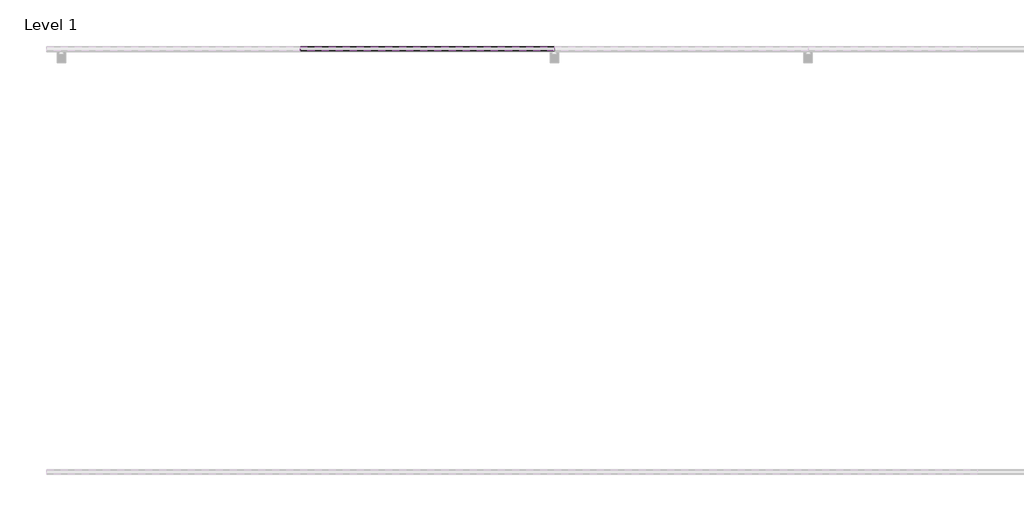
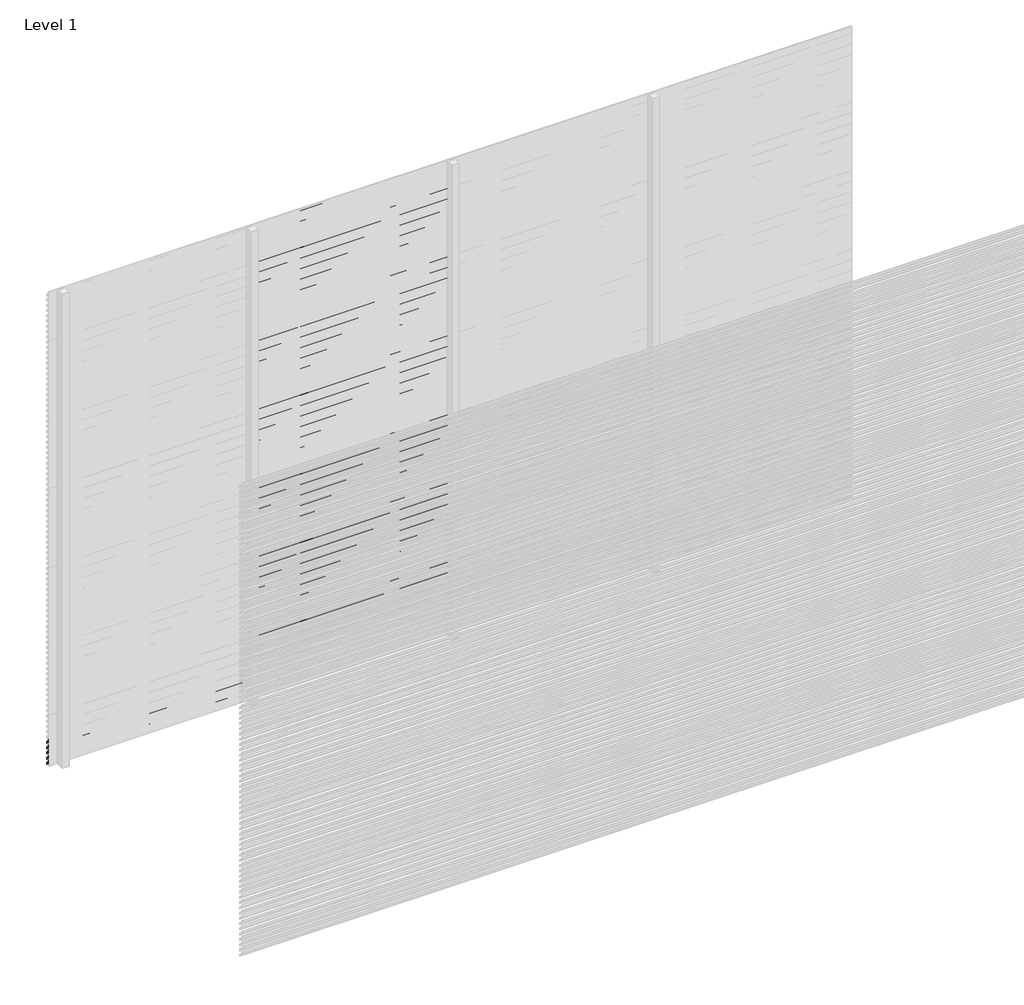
# One storey, part 51 of 507: 84 proxies.
"""IFC4 building model written with IfcOpenShell, lengths in millimetres."""

from ifc_helpers import new_model, si_unit, frame, origin, place, context, project, spatial, polyline, outline, extrude, element, save

model = new_model("IFC4")

# Units and contexts
model_context = context("Model", 3, world=origin())
ifc_project = project(units=[si_unit("LENGTHUNIT", "METRE", prefix="MILLI")], contexts=[model_context])

# Site, building, storey
site = spatial("IfcSite", under=ifc_project)
building = spatial("IfcBuilding", under=site)
storey = spatial("IfcBuildingStorey", under=building, Name="Level 1", Elevation=0.0)

# Proxies
placement = place(None, origin())
element("IfcBuildingElementProxy", 1, Name="Wall Sweeps", at=placement, inside=storey, context=model_context, shape_type="SweptSolid", body=[
    extrude(outline(polyline([(36503.4540136, 142.5), (36503.4540136, 129.0), (36502.2040136, 129.7216933), (36502.2040136, 141.7782281), (36483.0540136, 152.8345698), (36483.0540136, 166.5), (36484.3040136, 166.5), (36484.3040136, 153.5562577), (36503.4540136, 142.5)])), frame((44966.6208097, 0.0, 0.0), z_axis=(1.0, 0.0, 0.0), x_axis=(0.0, 1.0, 0.0)), (0.0, 0.0, 1.0), 1200.0000002),
])
element("IfcBuildingElementProxy", 2, Name="Wall Sweeps", at=placement, inside=storey, context=model_context, shape_type="SweptSolid", body=[
    extrude(outline(polyline([(36503.4540136, 109.2), (36503.4540136, 95.7), (36502.2040136, 96.4216933), (36502.2040136, 108.4782281), (36483.0540136, 119.5345698), (36483.0540136, 133.2), (36484.3040136, 133.2), (36484.3040136, 120.2562577), (36503.4540136, 109.2)])), frame((44966.6208097, 0.0, 0.0), z_axis=(1.0, 0.0, 0.0), x_axis=(0.0, 1.0, 0.0)), (0.0, 0.0, 1.0), 1200.0000002),
])
element("IfcBuildingElementProxy", 3, Name="Wall Sweeps", at=placement, inside=storey, context=model_context, shape_type="SweptSolid", body=[
    extrude(outline(polyline([(36503.4540136, 75.9), (36503.4540136, 62.4), (36502.2040136, 63.1216933), (36502.2040136, 75.1782281), (36483.0540136, 86.2345698), (36483.0540136, 99.9), (36484.3040136, 99.9), (36484.3040136, 86.9562577), (36503.4540136, 75.9)])), frame((44966.6208097, 0.0, 0.0), z_axis=(1.0, 0.0, 0.0), x_axis=(0.0, 1.0, 0.0)), (0.0, 0.0, 1.0), 1200.0000002),
])
element("IfcBuildingElementProxy", 4, Name="Wall Sweeps", at=placement, inside=storey, context=model_context, shape_type="SweptSolid", body=[
    extrude(outline(polyline([(36503.4540136, 42.6), (36503.4540136, 29.1), (36502.2040136, 29.8216933), (36502.2040136, 41.8782281), (36483.0540136, 52.9345698), (36483.0540136, 66.6), (36484.3040136, 66.6), (36484.3040136, 53.6562577), (36503.4540136, 42.6)])), frame((44966.6208097, 0.0, 0.0), z_axis=(1.0, 0.0, 0.0), x_axis=(0.0, 1.0, 0.0)), (0.0, 0.0, 1.0), 1200.0000002),
])
element("IfcBuildingElementProxy", 5, Name="Wall Sweeps", at=placement, inside=storey, context=model_context, shape_type="SweptSolid", body=[
    extrude(outline(polyline([(36503.4540136, 9.3), (36503.4540136, -4.2), (36502.2040136, -3.4783067), (36502.2040136, 8.5782281), (36483.0540136, 19.6345698), (36483.0540136, 33.3), (36484.3040136, 33.3), (36484.3040136, 20.3562577), (36503.4540136, 9.3)])), frame((44966.6208097, 0.0, 0.0), z_axis=(1.0, 0.0, 0.0), x_axis=(0.0, 1.0, 0.0)), (0.0, 0.0, 1.0), 1200.0000002),
])
element("IfcBuildingElementProxy", 6, Name="Wall Sweeps", at=placement, inside=storey, context=model_context, shape_type="SweptSolid", body=[
    extrude(outline(polyline([(36503.4540136, 2973.0), (36503.4540136, 2959.5), (36502.2040136, 2960.2216933), (36502.2040136, 2972.2782281), (36483.0540136, 2983.3345698), (36483.0540136, 2997.0), (36484.3040136, 2997.0), (36484.3040136, 2984.0562577), (36503.4540136, 2973.0)])), frame((46166.6208099, 0.0, 0.0), z_axis=(1.0, 0.0, 0.0), x_axis=(0.0, 1.0, 0.0)), (0.0, 0.0, 1.0), 1199.9999999),
])
element("IfcBuildingElementProxy", 7, Name="Wall Sweeps", at=placement, inside=storey, context=model_context, shape_type="SweptSolid", body=[
    extrude(outline(polyline([(36503.4540136, 2939.7), (36503.4540136, 2926.2), (36502.2040136, 2926.9216933), (36502.2040136, 2938.9782281), (36483.0540136, 2950.0345698), (36483.0540136, 2963.7), (36484.3040136, 2963.7), (36484.3040136, 2950.7562577), (36503.4540136, 2939.7)])), frame((46166.6208099, 0.0, 0.0), z_axis=(1.0, 0.0, 0.0), x_axis=(0.0, 1.0, 0.0)), (0.0, 0.0, 1.0), 1199.9999999),
])
element("IfcBuildingElementProxy", 8, Name="Wall Sweeps", at=placement, inside=storey, context=model_context, shape_type="SweptSolid", body=[
    extrude(outline(polyline([(36503.4540136, 2906.4), (36503.4540136, 2892.9), (36502.2040136, 2893.6216933), (36502.2040136, 2905.6782281), (36483.0540136, 2916.7345698), (36483.0540136, 2930.4), (36484.3040136, 2930.4), (36484.3040136, 2917.4562577), (36503.4540136, 2906.4)])), frame((46166.6208099, 0.0, 0.0), z_axis=(1.0, 0.0, 0.0), x_axis=(0.0, 1.0, 0.0)), (0.0, 0.0, 1.0), 1199.9999999),
])
element("IfcBuildingElementProxy", 9, Name="Wall Sweeps", at=placement, inside=storey, context=model_context, shape_type="SweptSolid", body=[
    extrude(outline(polyline([(36503.4540136, 2873.1), (36503.4540136, 2859.6), (36502.2040136, 2860.3216933), (36502.2040136, 2872.3782281), (36483.0540136, 2883.4345698), (36483.0540136, 2897.1), (36484.3040136, 2897.1), (36484.3040136, 2884.1562577), (36503.4540136, 2873.1)])), frame((46166.6208099, 0.0, 0.0), z_axis=(1.0, 0.0, 0.0), x_axis=(0.0, 1.0, 0.0)), (0.0, 0.0, 1.0), 1199.9999999),
])
element("IfcBuildingElementProxy", 10, Name="Wall Sweeps", at=placement, inside=storey, context=model_context, shape_type="SweptSolid", body=[
    extrude(outline(polyline([(36503.4540136, 2839.8), (36503.4540136, 2826.3), (36502.2040136, 2827.0216933), (36502.2040136, 2839.0782281), (36483.0540136, 2850.1345698), (36483.0540136, 2863.8), (36484.3040136, 2863.8), (36484.3040136, 2850.8562577), (36503.4540136, 2839.8)])), frame((46166.6208099, 0.0, 0.0), z_axis=(1.0, 0.0, 0.0), x_axis=(0.0, 1.0, 0.0)), (0.0, 0.0, 1.0), 1199.9999999),
])
element("IfcBuildingElementProxy", 11, Name="Wall Sweeps", at=placement, inside=storey, context=model_context, shape_type="SweptSolid", body=[
    extrude(outline(polyline([(36503.4540136, 2806.5), (36503.4540136, 2793.0), (36502.2040136, 2793.7216933), (36502.2040136, 2805.7782281), (36483.0540136, 2816.8345698), (36483.0540136, 2830.5), (36484.3040136, 2830.5), (36484.3040136, 2817.5562577), (36503.4540136, 2806.5)])), frame((46166.6208099, 0.0, 0.0), z_axis=(1.0, 0.0, 0.0), x_axis=(0.0, 1.0, 0.0)), (0.0, 0.0, 1.0), 1199.9999999),
])
element("IfcBuildingElementProxy", 12, Name="Wall Sweeps", at=placement, inside=storey, context=model_context, shape_type="SweptSolid", body=[
    extrude(outline(polyline([(36503.4540136, 2773.2), (36503.4540136, 2759.7), (36502.2040136, 2760.4216933), (36502.2040136, 2772.4782281), (36483.0540136, 2783.5345698), (36483.0540136, 2797.2), (36484.3040136, 2797.2), (36484.3040136, 2784.2562577), (36503.4540136, 2773.2)])), frame((46166.6208099, 0.0, 0.0), z_axis=(1.0, 0.0, 0.0), x_axis=(0.0, 1.0, 0.0)), (0.0, 0.0, 1.0), 1199.9999999),
])
element("IfcBuildingElementProxy", 13, Name="Wall Sweeps", at=placement, inside=storey, context=model_context, shape_type="SweptSolid", body=[
    extrude(outline(polyline([(36503.4540136, 2739.9), (36503.4540136, 2726.4), (36502.2040136, 2727.1216933), (36502.2040136, 2739.1782281), (36483.0540136, 2750.2345698), (36483.0540136, 2763.9), (36484.3040136, 2763.9), (36484.3040136, 2750.9562577), (36503.4540136, 2739.9)])), frame((46166.6208099, 0.0, 0.0), z_axis=(1.0, 0.0, 0.0), x_axis=(0.0, 1.0, 0.0)), (0.0, 0.0, 1.0), 1199.9999999),
])
element("IfcBuildingElementProxy", 14, Name="Wall Sweeps", at=placement, inside=storey, context=model_context, shape_type="SweptSolid", body=[
    extrude(outline(polyline([(36503.4540136, 2706.6), (36503.4540136, 2693.1), (36502.2040136, 2693.8216933), (36502.2040136, 2705.8782281), (36483.0540136, 2716.9345698), (36483.0540136, 2730.6), (36484.3040136, 2730.6), (36484.3040136, 2717.6562577), (36503.4540136, 2706.6)])), frame((46166.6208099, 0.0, 0.0), z_axis=(1.0, 0.0, 0.0), x_axis=(0.0, 1.0, 0.0)), (0.0, 0.0, 1.0), 1199.9999999),
])
element("IfcBuildingElementProxy", 15, Name="Wall Sweeps", at=placement, inside=storey, context=model_context, shape_type="SweptSolid", body=[
    extrude(outline(polyline([(36503.4540136, 2673.3), (36503.4540136, 2659.8), (36502.2040136, 2660.5216933), (36502.2040136, 2672.5782281), (36483.0540136, 2683.6345698), (36483.0540136, 2697.3), (36484.3040136, 2697.3), (36484.3040136, 2684.3562577), (36503.4540136, 2673.3)])), frame((46166.6208099, 0.0, 0.0), z_axis=(1.0, 0.0, 0.0), x_axis=(0.0, 1.0, 0.0)), (0.0, 0.0, 1.0), 1199.9999999),
])
element("IfcBuildingElementProxy", 16, Name="Wall Sweeps", at=placement, inside=storey, context=model_context, shape_type="SweptSolid", body=[
    extrude(outline(polyline([(36503.4540136, 2640.0), (36503.4540136, 2626.5), (36502.2040136, 2627.2216933), (36502.2040136, 2639.2782281), (36483.0540136, 2650.3345698), (36483.0540136, 2664.0), (36484.3040136, 2664.0), (36484.3040136, 2651.0562577), (36503.4540136, 2640.0)])), frame((46166.6208099, 0.0, 0.0), z_axis=(1.0, 0.0, 0.0), x_axis=(0.0, 1.0, 0.0)), (0.0, 0.0, 1.0), 1199.9999999),
])
element("IfcBuildingElementProxy", 17, Name="Wall Sweeps", at=placement, inside=storey, context=model_context, shape_type="SweptSolid", body=[
    extrude(outline(polyline([(36503.4540136, 2606.7), (36503.4540136, 2593.2), (36502.2040136, 2593.9216933), (36502.2040136, 2605.9782281), (36483.0540136, 2617.0345698), (36483.0540136, 2630.7), (36484.3040136, 2630.7), (36484.3040136, 2617.7562577), (36503.4540136, 2606.7)])), frame((46166.6208099, 0.0, 0.0), z_axis=(1.0, 0.0, 0.0), x_axis=(0.0, 1.0, 0.0)), (0.0, 0.0, 1.0), 1199.9999999),
])
element("IfcBuildingElementProxy", 18, Name="Wall Sweeps", at=placement, inside=storey, context=model_context, shape_type="SweptSolid", body=[
    extrude(outline(polyline([(36503.4540136, 2573.4), (36503.4540136, 2559.9), (36502.2040136, 2560.6216933), (36502.2040136, 2572.6782281), (36483.0540136, 2583.7345698), (36483.0540136, 2597.4), (36484.3040136, 2597.4), (36484.3040136, 2584.4562577), (36503.4540136, 2573.4)])), frame((46166.6208099, 0.0, 0.0), z_axis=(1.0, 0.0, 0.0), x_axis=(0.0, 1.0, 0.0)), (0.0, 0.0, 1.0), 1199.9999999),
])
element("IfcBuildingElementProxy", 19, Name="Wall Sweeps", at=placement, inside=storey, context=model_context, shape_type="SweptSolid", body=[
    extrude(outline(polyline([(36503.4540136, 2540.1), (36503.4540136, 2526.6), (36502.2040136, 2527.3216933), (36502.2040136, 2539.3782281), (36483.0540136, 2550.4345698), (36483.0540136, 2564.1), (36484.3040136, 2564.1), (36484.3040136, 2551.1562577), (36503.4540136, 2540.1)])), frame((46166.6208099, 0.0, 0.0), z_axis=(1.0, 0.0, 0.0), x_axis=(0.0, 1.0, 0.0)), (0.0, 0.0, 1.0), 1199.9999999),
])
element("IfcBuildingElementProxy", 20, Name="Wall Sweeps", at=placement, inside=storey, context=model_context, shape_type="SweptSolid", body=[
    extrude(outline(polyline([(36503.4540136, 2506.8), (36503.4540136, 2493.3), (36502.2040136, 2494.0216933), (36502.2040136, 2506.0782281), (36483.0540136, 2517.1345698), (36483.0540136, 2530.8), (36484.3040136, 2530.8), (36484.3040136, 2517.8562577), (36503.4540136, 2506.8)])), frame((46166.6208099, 0.0, 0.0), z_axis=(1.0, 0.0, 0.0), x_axis=(0.0, 1.0, 0.0)), (0.0, 0.0, 1.0), 1199.9999999),
])
element("IfcBuildingElementProxy", 21, Name="Wall Sweeps", at=placement, inside=storey, context=model_context, shape_type="SweptSolid", body=[
    extrude(outline(polyline([(36503.4540136, 2473.5), (36503.4540136, 2460.0), (36502.2040136, 2460.7216933), (36502.2040136, 2472.7782281), (36483.0540136, 2483.8345698), (36483.0540136, 2497.5), (36484.3040136, 2497.5), (36484.3040136, 2484.5562577), (36503.4540136, 2473.5)])), frame((46166.6208099, 0.0, 0.0), z_axis=(1.0, 0.0, 0.0), x_axis=(0.0, 1.0, 0.0)), (0.0, 0.0, 1.0), 1199.9999999),
])
element("IfcBuildingElementProxy", 22, Name="Wall Sweeps", at=placement, inside=storey, context=model_context, shape_type="SweptSolid", body=[
    extrude(outline(polyline([(36503.4540136, 2440.2), (36503.4540136, 2426.7), (36502.2040136, 2427.4216933), (36502.2040136, 2439.4782281), (36483.0540136, 2450.5345698), (36483.0540136, 2464.2), (36484.3040136, 2464.2), (36484.3040136, 2451.2562577), (36503.4540136, 2440.2)])), frame((46166.6208099, 0.0, 0.0), z_axis=(1.0, 0.0, 0.0), x_axis=(0.0, 1.0, 0.0)), (0.0, 0.0, 1.0), 1199.9999999),
])
element("IfcBuildingElementProxy", 23, Name="Wall Sweeps", at=placement, inside=storey, context=model_context, shape_type="SweptSolid", body=[
    extrude(outline(polyline([(36503.4540136, 2406.9), (36503.4540136, 2393.4), (36502.2040136, 2394.1216933), (36502.2040136, 2406.1782281), (36483.0540136, 2417.2345698), (36483.0540136, 2430.9), (36484.3040136, 2430.9), (36484.3040136, 2417.9562577), (36503.4540136, 2406.9)])), frame((46166.6208099, 0.0, 0.0), z_axis=(1.0, 0.0, 0.0), x_axis=(0.0, 1.0, 0.0)), (0.0, 0.0, 1.0), 1199.9999999),
])
element("IfcBuildingElementProxy", 24, Name="Wall Sweeps", at=placement, inside=storey, context=model_context, shape_type="SweptSolid", body=[
    extrude(outline(polyline([(36503.4540136, 2373.6), (36503.4540136, 2360.1), (36502.2040136, 2360.8216933), (36502.2040136, 2372.8782281), (36483.0540136, 2383.9345698), (36483.0540136, 2397.6), (36484.3040136, 2397.6), (36484.3040136, 2384.6562577), (36503.4540136, 2373.6)])), frame((46166.6208099, 0.0, 0.0), z_axis=(1.0, 0.0, 0.0), x_axis=(0.0, 1.0, 0.0)), (0.0, 0.0, 1.0), 1199.9999999),
])
element("IfcBuildingElementProxy", 25, Name="Wall Sweeps", at=placement, inside=storey, context=model_context, shape_type="SweptSolid", body=[
    extrude(outline(polyline([(36503.4540136, 2340.3), (36503.4540136, 2326.8), (36502.2040136, 2327.5216933), (36502.2040136, 2339.5782281), (36483.0540136, 2350.6345698), (36483.0540136, 2364.3), (36484.3040136, 2364.3), (36484.3040136, 2351.3562577), (36503.4540136, 2340.3)])), frame((46166.6208099, 0.0, 0.0), z_axis=(1.0, 0.0, 0.0), x_axis=(0.0, 1.0, 0.0)), (0.0, 0.0, 1.0), 1199.9999999),
])
element("IfcBuildingElementProxy", 26, Name="Wall Sweeps", at=placement, inside=storey, context=model_context, shape_type="SweptSolid", body=[
    extrude(outline(polyline([(36503.4540136, 2307.0), (36503.4540136, 2293.5), (36502.2040136, 2294.2216933), (36502.2040136, 2306.2782281), (36483.0540136, 2317.3345698), (36483.0540136, 2331.0), (36484.3040136, 2331.0), (36484.3040136, 2318.0562577), (36503.4540136, 2307.0)])), frame((46166.6208099, 0.0, 0.0), z_axis=(1.0, 0.0, 0.0), x_axis=(0.0, 1.0, 0.0)), (0.0, 0.0, 1.0), 1199.9999999),
])
element("IfcBuildingElementProxy", 27, Name="Wall Sweeps", at=placement, inside=storey, context=model_context, shape_type="SweptSolid", body=[
    extrude(outline(polyline([(36503.4540136, 2273.7), (36503.4540136, 2260.2), (36502.2040136, 2260.9216933), (36502.2040136, 2272.9782281), (36483.0540136, 2284.0345698), (36483.0540136, 2297.7), (36484.3040136, 2297.7), (36484.3040136, 2284.7562577), (36503.4540136, 2273.7)])), frame((46166.6208099, 0.0, 0.0), z_axis=(1.0, 0.0, 0.0), x_axis=(0.0, 1.0, 0.0)), (0.0, 0.0, 1.0), 1199.9999999),
])
element("IfcBuildingElementProxy", 28, Name="Wall Sweeps", at=placement, inside=storey, context=model_context, shape_type="SweptSolid", body=[
    extrude(outline(polyline([(36503.4540136, 2240.4), (36503.4540136, 2226.9), (36502.2040136, 2227.6216933), (36502.2040136, 2239.6782281), (36483.0540136, 2250.7345698), (36483.0540136, 2264.4), (36484.3040136, 2264.4), (36484.3040136, 2251.4562577), (36503.4540136, 2240.4)])), frame((46166.6208099, 0.0, 0.0), z_axis=(1.0, 0.0, 0.0), x_axis=(0.0, 1.0, 0.0)), (0.0, 0.0, 1.0), 1199.9999999),
])
element("IfcBuildingElementProxy", 29, Name="Wall Sweeps", at=placement, inside=storey, context=model_context, shape_type="SweptSolid", body=[
    extrude(outline(polyline([(36503.4540136, 2207.1), (36503.4540136, 2193.6), (36502.2040136, 2194.3216933), (36502.2040136, 2206.3782281), (36483.0540136, 2217.4345698), (36483.0540136, 2231.1), (36484.3040136, 2231.1), (36484.3040136, 2218.1562577), (36503.4540136, 2207.1)])), frame((46166.6208099, 0.0, 0.0), z_axis=(1.0, 0.0, 0.0), x_axis=(0.0, 1.0, 0.0)), (0.0, 0.0, 1.0), 1199.9999999),
])
element("IfcBuildingElementProxy", 30, Name="Wall Sweeps", at=placement, inside=storey, context=model_context, shape_type="SweptSolid", body=[
    extrude(outline(polyline([(36503.4540136, 2173.8), (36503.4540136, 2160.3), (36502.2040136, 2161.0216933), (36502.2040136, 2173.0782281), (36483.0540136, 2184.1345698), (36483.0540136, 2197.8), (36484.3040136, 2197.8), (36484.3040136, 2184.8562577), (36503.4540136, 2173.8)])), frame((46166.6208099, 0.0, 0.0), z_axis=(1.0, 0.0, 0.0), x_axis=(0.0, 1.0, 0.0)), (0.0, 0.0, 1.0), 1199.9999999),
])
element("IfcBuildingElementProxy", 31, Name="Wall Sweeps", at=placement, inside=storey, context=model_context, shape_type="SweptSolid", body=[
    extrude(outline(polyline([(36503.4540136, 2140.5), (36503.4540136, 2127.0), (36502.2040136, 2127.7216933), (36502.2040136, 2139.7782281), (36483.0540136, 2150.8345698), (36483.0540136, 2164.5), (36484.3040136, 2164.5), (36484.3040136, 2151.5562577), (36503.4540136, 2140.5)])), frame((46166.6208099, 0.0, 0.0), z_axis=(1.0, 0.0, 0.0), x_axis=(0.0, 1.0, 0.0)), (0.0, 0.0, 1.0), 1199.9999999),
])
element("IfcBuildingElementProxy", 32, Name="Wall Sweeps", at=placement, inside=storey, context=model_context, shape_type="SweptSolid", body=[
    extrude(outline(polyline([(36503.4540136, 2107.2), (36503.4540136, 2093.7), (36502.2040136, 2094.4216933), (36502.2040136, 2106.4782281), (36483.0540136, 2117.5345698), (36483.0540136, 2131.2), (36484.3040136, 2131.2), (36484.3040136, 2118.2562577), (36503.4540136, 2107.2)])), frame((46166.6208099, 0.0, 0.0), z_axis=(1.0, 0.0, 0.0), x_axis=(0.0, 1.0, 0.0)), (0.0, 0.0, 1.0), 1199.9999999),
])
element("IfcBuildingElementProxy", 33, Name="Wall Sweeps", at=placement, inside=storey, context=model_context, shape_type="SweptSolid", body=[
    extrude(outline(polyline([(36503.4540136, 2073.9), (36503.4540136, 2060.4), (36502.2040136, 2061.1216933), (36502.2040136, 2073.1782281), (36483.0540136, 2084.2345698), (36483.0540136, 2097.9), (36484.3040136, 2097.9), (36484.3040136, 2084.9562577), (36503.4540136, 2073.9)])), frame((46166.6208099, 0.0, 0.0), z_axis=(1.0, 0.0, 0.0), x_axis=(0.0, 1.0, 0.0)), (0.0, 0.0, 1.0), 1199.9999999),
])
element("IfcBuildingElementProxy", 34, Name="Wall Sweeps", at=placement, inside=storey, context=model_context, shape_type="SweptSolid", body=[
    extrude(outline(polyline([(36503.4540136, 2040.6), (36503.4540136, 2027.1), (36502.2040136, 2027.8216933), (36502.2040136, 2039.8782281), (36483.0540136, 2050.9345698), (36483.0540136, 2064.6), (36484.3040136, 2064.6), (36484.3040136, 2051.6562577), (36503.4540136, 2040.6)])), frame((46166.6208099, 0.0, 0.0), z_axis=(1.0, 0.0, 0.0), x_axis=(0.0, 1.0, 0.0)), (0.0, 0.0, 1.0), 1199.9999999),
])
element("IfcBuildingElementProxy", 35, Name="Wall Sweeps", at=placement, inside=storey, context=model_context, shape_type="SweptSolid", body=[
    extrude(outline(polyline([(36503.4540136, 2007.3), (36503.4540136, 1993.8), (36502.2040136, 1994.5216933), (36502.2040136, 2006.5782281), (36483.0540136, 2017.6345698), (36483.0540136, 2031.3), (36484.3040136, 2031.3), (36484.3040136, 2018.3562577), (36503.4540136, 2007.3)])), frame((46166.6208099, 0.0, 0.0), z_axis=(1.0, 0.0, 0.0), x_axis=(0.0, 1.0, 0.0)), (0.0, 0.0, 1.0), 1199.9999999),
])
element("IfcBuildingElementProxy", 36, Name="Wall Sweeps", at=placement, inside=storey, context=model_context, shape_type="SweptSolid", body=[
    extrude(outline(polyline([(36503.4540136, 1974.0), (36503.4540136, 1960.5), (36502.2040136, 1961.2216933), (36502.2040136, 1973.2782281), (36483.0540136, 1984.3345698), (36483.0540136, 1998.0), (36484.3040136, 1998.0), (36484.3040136, 1985.0562577), (36503.4540136, 1974.0)])), frame((46166.6208099, 0.0, 0.0), z_axis=(1.0, 0.0, 0.0), x_axis=(0.0, 1.0, 0.0)), (0.0, 0.0, 1.0), 1199.9999999),
])
element("IfcBuildingElementProxy", 37, Name="Wall Sweeps", at=placement, inside=storey, context=model_context, shape_type="SweptSolid", body=[
    extrude(outline(polyline([(36503.4540136, 1940.7), (36503.4540136, 1927.2), (36502.2040136, 1927.9216933), (36502.2040136, 1939.9782281), (36483.0540136, 1951.0345698), (36483.0540136, 1964.7), (36484.3040136, 1964.7), (36484.3040136, 1951.7562577), (36503.4540136, 1940.7)])), frame((46166.6208099, 0.0, 0.0), z_axis=(1.0, 0.0, 0.0), x_axis=(0.0, 1.0, 0.0)), (0.0, 0.0, 1.0), 1199.9999999),
])
element("IfcBuildingElementProxy", 38, Name="Wall Sweeps", at=placement, inside=storey, context=model_context, shape_type="SweptSolid", body=[
    extrude(outline(polyline([(36503.4540136, 1907.4), (36503.4540136, 1893.9), (36502.2040136, 1894.6216933), (36502.2040136, 1906.6782281), (36483.0540136, 1917.7345698), (36483.0540136, 1931.4), (36484.3040136, 1931.4), (36484.3040136, 1918.4562577), (36503.4540136, 1907.4)])), frame((46166.6208099, 0.0, 0.0), z_axis=(1.0, 0.0, 0.0), x_axis=(0.0, 1.0, 0.0)), (0.0, 0.0, 1.0), 1199.9999999),
])
element("IfcBuildingElementProxy", 39, Name="Wall Sweeps", at=placement, inside=storey, context=model_context, shape_type="SweptSolid", body=[
    extrude(outline(polyline([(36503.4540136, 1874.1), (36503.4540136, 1860.6), (36502.2040136, 1861.3216933), (36502.2040136, 1873.3782281), (36483.0540136, 1884.4345698), (36483.0540136, 1898.1), (36484.3040136, 1898.1), (36484.3040136, 1885.1562577), (36503.4540136, 1874.1)])), frame((46166.6208099, 0.0, 0.0), z_axis=(1.0, 0.0, 0.0), x_axis=(0.0, 1.0, 0.0)), (0.0, 0.0, 1.0), 1199.9999999),
])
element("IfcBuildingElementProxy", 40, Name="Wall Sweeps", at=placement, inside=storey, context=model_context, shape_type="SweptSolid", body=[
    extrude(outline(polyline([(36503.4540136, 1840.8), (36503.4540136, 1827.3), (36502.2040136, 1828.0216933), (36502.2040136, 1840.0782281), (36483.0540136, 1851.1345698), (36483.0540136, 1864.8), (36484.3040136, 1864.8), (36484.3040136, 1851.8562577), (36503.4540136, 1840.8)])), frame((46166.6208099, 0.0, 0.0), z_axis=(1.0, 0.0, 0.0), x_axis=(0.0, 1.0, 0.0)), (0.0, 0.0, 1.0), 1199.9999999),
])
element("IfcBuildingElementProxy", 41, Name="Wall Sweeps", at=placement, inside=storey, context=model_context, shape_type="SweptSolid", body=[
    extrude(outline(polyline([(36503.4540136, 1807.5), (36503.4540136, 1794.0), (36502.2040136, 1794.7216933), (36502.2040136, 1806.7782281), (36483.0540136, 1817.8345698), (36483.0540136, 1831.5), (36484.3040136, 1831.5), (36484.3040136, 1818.5562577), (36503.4540136, 1807.5)])), frame((46166.6208099, 0.0, 0.0), z_axis=(1.0, 0.0, 0.0), x_axis=(0.0, 1.0, 0.0)), (0.0, 0.0, 1.0), 1199.9999999),
])
element("IfcBuildingElementProxy", 42, Name="Wall Sweeps", at=placement, inside=storey, context=model_context, shape_type="SweptSolid", body=[
    extrude(outline(polyline([(36503.4540136, 1774.2), (36503.4540136, 1760.7), (36502.2040136, 1761.4216933), (36502.2040136, 1773.4782281), (36483.0540136, 1784.5345698), (36483.0540136, 1798.2), (36484.3040136, 1798.2), (36484.3040136, 1785.2562577), (36503.4540136, 1774.2)])), frame((46166.6208099, 0.0, 0.0), z_axis=(1.0, 0.0, 0.0), x_axis=(0.0, 1.0, 0.0)), (0.0, 0.0, 1.0), 1199.9999999),
])
element("IfcBuildingElementProxy", 43, Name="Wall Sweeps", at=placement, inside=storey, context=model_context, shape_type="SweptSolid", body=[
    extrude(outline(polyline([(36503.4540136, 1740.9), (36503.4540136, 1727.4), (36502.2040136, 1728.1216933), (36502.2040136, 1740.1782281), (36483.0540136, 1751.2345698), (36483.0540136, 1764.9), (36484.3040136, 1764.9), (36484.3040136, 1751.9562577), (36503.4540136, 1740.9)])), frame((46166.6208099, 0.0, 0.0), z_axis=(1.0, 0.0, 0.0), x_axis=(0.0, 1.0, 0.0)), (0.0, 0.0, 1.0), 1199.9999999),
])
element("IfcBuildingElementProxy", 44, Name="Wall Sweeps", at=placement, inside=storey, context=model_context, shape_type="SweptSolid", body=[
    extrude(outline(polyline([(36503.4540136, 1707.6), (36503.4540136, 1694.1), (36502.2040136, 1694.8216933), (36502.2040136, 1706.8782281), (36483.0540136, 1717.9345698), (36483.0540136, 1731.6), (36484.3040136, 1731.6), (36484.3040136, 1718.6562577), (36503.4540136, 1707.6)])), frame((46166.6208099, 0.0, 0.0), z_axis=(1.0, 0.0, 0.0), x_axis=(0.0, 1.0, 0.0)), (0.0, 0.0, 1.0), 1199.9999999),
])
element("IfcBuildingElementProxy", 45, Name="Wall Sweeps", at=placement, inside=storey, context=model_context, shape_type="SweptSolid", body=[
    extrude(outline(polyline([(36503.4540136, 1674.3), (36503.4540136, 1660.8), (36502.2040136, 1661.5216933), (36502.2040136, 1673.5782281), (36483.0540136, 1684.6345698), (36483.0540136, 1698.3), (36484.3040136, 1698.3), (36484.3040136, 1685.3562577), (36503.4540136, 1674.3)])), frame((46166.6208099, 0.0, 0.0), z_axis=(1.0, 0.0, 0.0), x_axis=(0.0, 1.0, 0.0)), (0.0, 0.0, 1.0), 1199.9999999),
])
element("IfcBuildingElementProxy", 46, Name="Wall Sweeps", at=placement, inside=storey, context=model_context, shape_type="SweptSolid", body=[
    extrude(outline(polyline([(36503.4540136, 1641.0), (36503.4540136, 1627.5), (36502.2040136, 1628.2216933), (36502.2040136, 1640.2782281), (36483.0540136, 1651.3345698), (36483.0540136, 1665.0), (36484.3040136, 1665.0), (36484.3040136, 1652.0562577), (36503.4540136, 1641.0)])), frame((46166.6208099, 0.0, 0.0), z_axis=(1.0, 0.0, 0.0), x_axis=(0.0, 1.0, 0.0)), (0.0, 0.0, 1.0), 1199.9999999),
])
element("IfcBuildingElementProxy", 47, Name="Wall Sweeps", at=placement, inside=storey, context=model_context, shape_type="SweptSolid", body=[
    extrude(outline(polyline([(36503.4540136, 1607.7), (36503.4540136, 1594.2), (36502.2040136, 1594.9216933), (36502.2040136, 1606.9782281), (36483.0540136, 1618.0345698), (36483.0540136, 1631.7), (36484.3040136, 1631.7), (36484.3040136, 1618.7562577), (36503.4540136, 1607.7)])), frame((46166.6208099, 0.0, 0.0), z_axis=(1.0, 0.0, 0.0), x_axis=(0.0, 1.0, 0.0)), (0.0, 0.0, 1.0), 1199.9999999),
])
element("IfcBuildingElementProxy", 48, Name="Wall Sweeps", at=placement, inside=storey, context=model_context, shape_type="SweptSolid", body=[
    extrude(outline(polyline([(36503.4540136, 1574.4), (36503.4540136, 1560.9), (36502.2040136, 1561.6216933), (36502.2040136, 1573.6782281), (36483.0540136, 1584.7345698), (36483.0540136, 1598.4), (36484.3040136, 1598.4), (36484.3040136, 1585.4562577), (36503.4540136, 1574.4)])), frame((46166.6208099, 0.0, 0.0), z_axis=(1.0, 0.0, 0.0), x_axis=(0.0, 1.0, 0.0)), (0.0, 0.0, 1.0), 1199.9999999),
])
element("IfcBuildingElementProxy", 49, Name="Wall Sweeps", at=placement, inside=storey, context=model_context, shape_type="SweptSolid", body=[
    extrude(outline(polyline([(36503.4540136, 1541.1), (36503.4540136, 1527.6), (36502.2040136, 1528.3216933), (36502.2040136, 1540.3782281), (36483.0540136, 1551.4345698), (36483.0540136, 1565.1), (36484.3040136, 1565.1), (36484.3040136, 1552.1562577), (36503.4540136, 1541.1)])), frame((46166.6208099, 0.0, 0.0), z_axis=(1.0, 0.0, 0.0), x_axis=(0.0, 1.0, 0.0)), (0.0, 0.0, 1.0), 1199.9999999),
])
element("IfcBuildingElementProxy", 50, Name="Wall Sweeps", at=placement, inside=storey, context=model_context, shape_type="SweptSolid", body=[
    extrude(outline(polyline([(36503.4540136, 1507.8), (36503.4540136, 1494.3), (36502.2040136, 1495.0216933), (36502.2040136, 1507.0782281), (36483.0540136, 1518.1345698), (36483.0540136, 1531.8), (36484.3040136, 1531.8), (36484.3040136, 1518.8562577), (36503.4540136, 1507.8)])), frame((46166.6208099, 0.0, 0.0), z_axis=(1.0, 0.0, 0.0), x_axis=(0.0, 1.0, 0.0)), (0.0, 0.0, 1.0), 1199.9999999),
])
element("IfcBuildingElementProxy", 51, Name="Wall Sweeps", at=placement, inside=storey, context=model_context, shape_type="SweptSolid", body=[
    extrude(outline(polyline([(36503.4540136, 1474.5), (36503.4540136, 1461.0), (36502.2040136, 1461.7216933), (36502.2040136, 1473.7782281), (36483.0540136, 1484.8345698), (36483.0540136, 1498.5), (36484.3040136, 1498.5), (36484.3040136, 1485.5562577), (36503.4540136, 1474.5)])), frame((46166.6208099, 0.0, 0.0), z_axis=(1.0, 0.0, 0.0), x_axis=(0.0, 1.0, 0.0)), (0.0, 0.0, 1.0), 1199.9999999),
])
element("IfcBuildingElementProxy", 52, Name="Wall Sweeps", at=placement, inside=storey, context=model_context, shape_type="SweptSolid", body=[
    extrude(outline(polyline([(36503.4540136, 1441.2), (36503.4540136, 1427.7), (36502.2040136, 1428.4216933), (36502.2040136, 1440.4782281), (36483.0540136, 1451.5345698), (36483.0540136, 1465.2), (36484.3040136, 1465.2), (36484.3040136, 1452.2562577), (36503.4540136, 1441.2)])), frame((46166.6208099, 0.0, 0.0), z_axis=(1.0, 0.0, 0.0), x_axis=(0.0, 1.0, 0.0)), (0.0, 0.0, 1.0), 1199.9999999),
])
element("IfcBuildingElementProxy", 53, Name="Wall Sweeps", at=placement, inside=storey, context=model_context, shape_type="SweptSolid", body=[
    extrude(outline(polyline([(36503.4540136, 1407.9), (36503.4540136, 1394.4), (36502.2040136, 1395.1216933), (36502.2040136, 1407.1782281), (36483.0540136, 1418.2345698), (36483.0540136, 1431.9), (36484.3040136, 1431.9), (36484.3040136, 1418.9562577), (36503.4540136, 1407.9)])), frame((46166.6208099, 0.0, 0.0), z_axis=(1.0, 0.0, 0.0), x_axis=(0.0, 1.0, 0.0)), (0.0, 0.0, 1.0), 1199.9999999),
])
element("IfcBuildingElementProxy", 54, Name="Wall Sweeps", at=placement, inside=storey, context=model_context, shape_type="SweptSolid", body=[
    extrude(outline(polyline([(36503.4540136, 1374.6), (36503.4540136, 1361.1), (36502.2040136, 1361.8216933), (36502.2040136, 1373.8782281), (36483.0540136, 1384.9345698), (36483.0540136, 1398.6), (36484.3040136, 1398.6), (36484.3040136, 1385.6562577), (36503.4540136, 1374.6)])), frame((46166.6208099, 0.0, 0.0), z_axis=(1.0, 0.0, 0.0), x_axis=(0.0, 1.0, 0.0)), (0.0, 0.0, 1.0), 1199.9999999),
])
element("IfcBuildingElementProxy", 55, Name="Wall Sweeps", at=placement, inside=storey, context=model_context, shape_type="SweptSolid", body=[
    extrude(outline(polyline([(36503.4540136, 1341.3), (36503.4540136, 1327.8), (36502.2040136, 1328.5216933), (36502.2040136, 1340.5782281), (36483.0540136, 1351.6345698), (36483.0540136, 1365.3), (36484.3040136, 1365.3), (36484.3040136, 1352.3562577), (36503.4540136, 1341.3)])), frame((46166.6208099, 0.0, 0.0), z_axis=(1.0, 0.0, 0.0), x_axis=(0.0, 1.0, 0.0)), (0.0, 0.0, 1.0), 1199.9999999),
])
element("IfcBuildingElementProxy", 56, Name="Wall Sweeps", at=placement, inside=storey, context=model_context, shape_type="SweptSolid", body=[
    extrude(outline(polyline([(36503.4540136, 1308.0), (36503.4540136, 1294.5), (36502.2040136, 1295.2216933), (36502.2040136, 1307.2782281), (36483.0540136, 1318.3345698), (36483.0540136, 1332.0), (36484.3040136, 1332.0), (36484.3040136, 1319.0562577), (36503.4540136, 1308.0)])), frame((46166.6208099, 0.0, 0.0), z_axis=(1.0, 0.0, 0.0), x_axis=(0.0, 1.0, 0.0)), (0.0, 0.0, 1.0), 1199.9999999),
])
element("IfcBuildingElementProxy", 57, Name="Wall Sweeps", at=placement, inside=storey, context=model_context, shape_type="SweptSolid", body=[
    extrude(outline(polyline([(36503.4540136, 1274.7), (36503.4540136, 1261.2), (36502.2040136, 1261.9216933), (36502.2040136, 1273.9782281), (36483.0540136, 1285.0345698), (36483.0540136, 1298.7), (36484.3040136, 1298.7), (36484.3040136, 1285.7562577), (36503.4540136, 1274.7)])), frame((46166.6208099, 0.0, 0.0), z_axis=(1.0, 0.0, 0.0), x_axis=(0.0, 1.0, 0.0)), (0.0, 0.0, 1.0), 1199.9999999),
])
element("IfcBuildingElementProxy", 58, Name="Wall Sweeps", at=placement, inside=storey, context=model_context, shape_type="SweptSolid", body=[
    extrude(outline(polyline([(36503.4540136, 1241.4), (36503.4540136, 1227.9), (36502.2040136, 1228.6216933), (36502.2040136, 1240.6782281), (36483.0540136, 1251.7345698), (36483.0540136, 1265.4), (36484.3040136, 1265.4), (36484.3040136, 1252.4562577), (36503.4540136, 1241.4)])), frame((46166.6208099, 0.0, 0.0), z_axis=(1.0, 0.0, 0.0), x_axis=(0.0, 1.0, 0.0)), (0.0, 0.0, 1.0), 1199.9999999),
])
element("IfcBuildingElementProxy", 59, Name="Wall Sweeps", at=placement, inside=storey, context=model_context, shape_type="SweptSolid", body=[
    extrude(outline(polyline([(36503.4540136, 1208.1), (36503.4540136, 1194.6), (36502.2040136, 1195.3216933), (36502.2040136, 1207.3782281), (36483.0540136, 1218.4345698), (36483.0540136, 1232.1), (36484.3040136, 1232.1), (36484.3040136, 1219.1562577), (36503.4540136, 1208.1)])), frame((46166.6208099, 0.0, 0.0), z_axis=(1.0, 0.0, 0.0), x_axis=(0.0, 1.0, 0.0)), (0.0, 0.0, 1.0), 1199.9999999),
])
element("IfcBuildingElementProxy", 60, Name="Wall Sweeps", at=placement, inside=storey, context=model_context, shape_type="SweptSolid", body=[
    extrude(outline(polyline([(36503.4540136, 1174.8), (36503.4540136, 1161.3), (36502.2040136, 1162.0216933), (36502.2040136, 1174.0782281), (36483.0540136, 1185.1345698), (36483.0540136, 1198.8), (36484.3040136, 1198.8), (36484.3040136, 1185.8562577), (36503.4540136, 1174.8)])), frame((46166.6208099, 0.0, 0.0), z_axis=(1.0, 0.0, 0.0), x_axis=(0.0, 1.0, 0.0)), (0.0, 0.0, 1.0), 1199.9999999),
])
element("IfcBuildingElementProxy", 61, Name="Wall Sweeps", at=placement, inside=storey, context=model_context, shape_type="SweptSolid", body=[
    extrude(outline(polyline([(36503.4540136, 1141.5), (36503.4540136, 1128.0), (36502.2040136, 1128.7216933), (36502.2040136, 1140.7782281), (36483.0540136, 1151.8345698), (36483.0540136, 1165.5), (36484.3040136, 1165.5), (36484.3040136, 1152.5562577), (36503.4540136, 1141.5)])), frame((46166.6208099, 0.0, 0.0), z_axis=(1.0, 0.0, 0.0), x_axis=(0.0, 1.0, 0.0)), (0.0, 0.0, 1.0), 1199.9999999),
])
element("IfcBuildingElementProxy", 62, Name="Wall Sweeps", at=placement, inside=storey, context=model_context, shape_type="SweptSolid", body=[
    extrude(outline(polyline([(36503.4540136, 1108.2), (36503.4540136, 1094.7), (36502.2040136, 1095.4216933), (36502.2040136, 1107.4782281), (36483.0540136, 1118.5345698), (36483.0540136, 1132.2), (36484.3040136, 1132.2), (36484.3040136, 1119.2562577), (36503.4540136, 1108.2)])), frame((46166.6208099, 0.0, 0.0), z_axis=(1.0, 0.0, 0.0), x_axis=(0.0, 1.0, 0.0)), (0.0, 0.0, 1.0), 1199.9999999),
])
element("IfcBuildingElementProxy", 63, Name="Wall Sweeps", at=placement, inside=storey, context=model_context, shape_type="SweptSolid", body=[
    extrude(outline(polyline([(36503.4540136, 1074.9), (36503.4540136, 1061.4), (36502.2040136, 1062.1216933), (36502.2040136, 1074.1782281), (36483.0540136, 1085.2345698), (36483.0540136, 1098.9), (36484.3040136, 1098.9), (36484.3040136, 1085.9562577), (36503.4540136, 1074.9)])), frame((46166.6208099, 0.0, 0.0), z_axis=(1.0, 0.0, 0.0), x_axis=(0.0, 1.0, 0.0)), (0.0, 0.0, 1.0), 1199.9999999),
])
element("IfcBuildingElementProxy", 64, Name="Wall Sweeps", at=placement, inside=storey, context=model_context, shape_type="SweptSolid", body=[
    extrude(outline(polyline([(36503.4540136, 1041.6), (36503.4540136, 1028.1), (36502.2040136, 1028.8216933), (36502.2040136, 1040.8782281), (36483.0540136, 1051.9345698), (36483.0540136, 1065.6), (36484.3040136, 1065.6), (36484.3040136, 1052.6562577), (36503.4540136, 1041.6)])), frame((46166.6208099, 0.0, 0.0), z_axis=(1.0, 0.0, 0.0), x_axis=(0.0, 1.0, 0.0)), (0.0, 0.0, 1.0), 1199.9999999),
])
element("IfcBuildingElementProxy", 65, Name="Wall Sweeps", at=placement, inside=storey, context=model_context, shape_type="SweptSolid", body=[
    extrude(outline(polyline([(36503.4540136, 1008.3), (36503.4540136, 994.8), (36502.2040136, 995.5216933), (36502.2040136, 1007.5782281), (36483.0540136, 1018.6345698), (36483.0540136, 1032.3), (36484.3040136, 1032.3), (36484.3040136, 1019.3562577), (36503.4540136, 1008.3)])), frame((46166.6208099, 0.0, 0.0), z_axis=(1.0, 0.0, 0.0), x_axis=(0.0, 1.0, 0.0)), (0.0, 0.0, 1.0), 1199.9999999),
])
element("IfcBuildingElementProxy", 66, Name="Wall Sweeps", at=placement, inside=storey, context=model_context, shape_type="SweptSolid", body=[
    extrude(outline(polyline([(36503.4540136, 975.0), (36503.4540136, 961.5), (36502.2040136, 962.2216933), (36502.2040136, 974.2782281), (36483.0540136, 985.3345698), (36483.0540136, 999.0), (36484.3040136, 999.0), (36484.3040136, 986.0562577), (36503.4540136, 975.0)])), frame((46166.6208099, 0.0, 0.0), z_axis=(1.0, 0.0, 0.0), x_axis=(0.0, 1.0, 0.0)), (0.0, 0.0, 1.0), 1199.9999999),
])
element("IfcBuildingElementProxy", 67, Name="Wall Sweeps", at=placement, inside=storey, context=model_context, shape_type="SweptSolid", body=[
    extrude(outline(polyline([(36503.4540136, 941.7), (36503.4540136, 928.2), (36502.2040136, 928.9216933), (36502.2040136, 940.9782281), (36483.0540136, 952.0345698), (36483.0540136, 965.7), (36484.3040136, 965.7), (36484.3040136, 952.7562577), (36503.4540136, 941.7)])), frame((46166.6208099, 0.0, 0.0), z_axis=(1.0, 0.0, 0.0), x_axis=(0.0, 1.0, 0.0)), (0.0, 0.0, 1.0), 1199.9999999),
])
element("IfcBuildingElementProxy", 68, Name="Wall Sweeps", at=placement, inside=storey, context=model_context, shape_type="SweptSolid", body=[
    extrude(outline(polyline([(36503.4540136, 908.4), (36503.4540136, 894.9), (36502.2040136, 895.6216933), (36502.2040136, 907.6782281), (36483.0540136, 918.7345698), (36483.0540136, 932.4), (36484.3040136, 932.4), (36484.3040136, 919.4562577), (36503.4540136, 908.4)])), frame((46166.6208099, 0.0, 0.0), z_axis=(1.0, 0.0, 0.0), x_axis=(0.0, 1.0, 0.0)), (0.0, 0.0, 1.0), 1199.9999999),
])
element("IfcBuildingElementProxy", 69, Name="Wall Sweeps", at=placement, inside=storey, context=model_context, shape_type="SweptSolid", body=[
    extrude(outline(polyline([(36503.4540136, 875.1), (36503.4540136, 861.6), (36502.2040136, 862.3216933), (36502.2040136, 874.3782281), (36483.0540136, 885.4345698), (36483.0540136, 899.1), (36484.3040136, 899.1), (36484.3040136, 886.1562577), (36503.4540136, 875.1)])), frame((46166.6208099, 0.0, 0.0), z_axis=(1.0, 0.0, 0.0), x_axis=(0.0, 1.0, 0.0)), (0.0, 0.0, 1.0), 1199.9999999),
])
element("IfcBuildingElementProxy", 70, Name="Wall Sweeps", at=placement, inside=storey, context=model_context, shape_type="SweptSolid", body=[
    extrude(outline(polyline([(36503.4540136, 841.8), (36503.4540136, 828.3), (36502.2040136, 829.0216933), (36502.2040136, 841.0782281), (36483.0540136, 852.1345698), (36483.0540136, 865.8), (36484.3040136, 865.8), (36484.3040136, 852.8562577), (36503.4540136, 841.8)])), frame((46166.6208099, 0.0, 0.0), z_axis=(1.0, 0.0, 0.0), x_axis=(0.0, 1.0, 0.0)), (0.0, 0.0, 1.0), 1199.9999999),
])
element("IfcBuildingElementProxy", 71, Name="Wall Sweeps", at=placement, inside=storey, context=model_context, shape_type="SweptSolid", body=[
    extrude(outline(polyline([(36503.4540136, 808.5), (36503.4540136, 795.0), (36502.2040136, 795.7216933), (36502.2040136, 807.7782281), (36483.0540136, 818.8345698), (36483.0540136, 832.5), (36484.3040136, 832.5), (36484.3040136, 819.5562577), (36503.4540136, 808.5)])), frame((46166.6208099, 0.0, 0.0), z_axis=(1.0, 0.0, 0.0), x_axis=(0.0, 1.0, 0.0)), (0.0, 0.0, 1.0), 1199.9999999),
])
element("IfcBuildingElementProxy", 72, Name="Wall Sweeps", at=placement, inside=storey, context=model_context, shape_type="SweptSolid", body=[
    extrude(outline(polyline([(36503.4540136, 775.2), (36503.4540136, 761.7), (36502.2040136, 762.4216933), (36502.2040136, 774.4782281), (36483.0540136, 785.5345698), (36483.0540136, 799.2), (36484.3040136, 799.2), (36484.3040136, 786.2562577), (36503.4540136, 775.2)])), frame((46166.6208099, 0.0, 0.0), z_axis=(1.0, 0.0, 0.0), x_axis=(0.0, 1.0, 0.0)), (0.0, 0.0, 1.0), 1199.9999999),
])
element("IfcBuildingElementProxy", 73, Name="Wall Sweeps", at=placement, inside=storey, context=model_context, shape_type="SweptSolid", body=[
    extrude(outline(polyline([(36503.4540136, 741.9), (36503.4540136, 728.4), (36502.2040136, 729.1216933), (36502.2040136, 741.1782281), (36483.0540136, 752.2345698), (36483.0540136, 765.9), (36484.3040136, 765.9), (36484.3040136, 752.9562577), (36503.4540136, 741.9)])), frame((46166.6208099, 0.0, 0.0), z_axis=(1.0, 0.0, 0.0), x_axis=(0.0, 1.0, 0.0)), (0.0, 0.0, 1.0), 1199.9999999),
])
element("IfcBuildingElementProxy", 74, Name="Wall Sweeps", at=placement, inside=storey, context=model_context, shape_type="SweptSolid", body=[
    extrude(outline(polyline([(36503.4540136, 708.6), (36503.4540136, 695.1), (36502.2040136, 695.8216933), (36502.2040136, 707.8782281), (36483.0540136, 718.9345698), (36483.0540136, 732.6), (36484.3040136, 732.6), (36484.3040136, 719.6562577), (36503.4540136, 708.6)])), frame((46166.6208099, 0.0, 0.0), z_axis=(1.0, 0.0, 0.0), x_axis=(0.0, 1.0, 0.0)), (0.0, 0.0, 1.0), 1199.9999999),
])
element("IfcBuildingElementProxy", 75, Name="Wall Sweeps", at=placement, inside=storey, context=model_context, shape_type="SweptSolid", body=[
    extrude(outline(polyline([(36503.4540136, 675.3), (36503.4540136, 661.8), (36502.2040136, 662.5216933), (36502.2040136, 674.5782281), (36483.0540136, 685.6345698), (36483.0540136, 699.3), (36484.3040136, 699.3), (36484.3040136, 686.3562577), (36503.4540136, 675.3)])), frame((46166.6208099, 0.0, 0.0), z_axis=(1.0, 0.0, 0.0), x_axis=(0.0, 1.0, 0.0)), (0.0, 0.0, 1.0), 1199.9999999),
])
element("IfcBuildingElementProxy", 76, Name="Wall Sweeps", at=placement, inside=storey, context=model_context, shape_type="SweptSolid", body=[
    extrude(outline(polyline([(36503.4540136, 642.0), (36503.4540136, 628.5), (36502.2040136, 629.2216933), (36502.2040136, 641.2782281), (36483.0540136, 652.3345698), (36483.0540136, 666.0), (36484.3040136, 666.0), (36484.3040136, 653.0562577), (36503.4540136, 642.0)])), frame((46166.6208099, 0.0, 0.0), z_axis=(1.0, 0.0, 0.0), x_axis=(0.0, 1.0, 0.0)), (0.0, 0.0, 1.0), 1199.9999999),
])
element("IfcBuildingElementProxy", 77, Name="Wall Sweeps", at=placement, inside=storey, context=model_context, shape_type="SweptSolid", body=[
    extrude(outline(polyline([(36503.4540136, 608.7), (36503.4540136, 595.2), (36502.2040136, 595.9216933), (36502.2040136, 607.9782281), (36483.0540136, 619.0345698), (36483.0540136, 632.7), (36484.3040136, 632.7), (36484.3040136, 619.7562577), (36503.4540136, 608.7)])), frame((46166.6208099, 0.0, 0.0), z_axis=(1.0, 0.0, 0.0), x_axis=(0.0, 1.0, 0.0)), (0.0, 0.0, 1.0), 1199.9999999),
])
element("IfcBuildingElementProxy", 78, Name="Wall Sweeps", at=placement, inside=storey, context=model_context, shape_type="SweptSolid", body=[
    extrude(outline(polyline([(36503.4540136, 575.4), (36503.4540136, 561.9), (36502.2040136, 562.6216933), (36502.2040136, 574.6782281), (36483.0540136, 585.7345698), (36483.0540136, 599.4), (36484.3040136, 599.4), (36484.3040136, 586.4562577), (36503.4540136, 575.4)])), frame((46166.6208099, 0.0, 0.0), z_axis=(1.0, 0.0, 0.0), x_axis=(0.0, 1.0, 0.0)), (0.0, 0.0, 1.0), 1199.9999999),
])
element("IfcBuildingElementProxy", 79, Name="Wall Sweeps", at=placement, inside=storey, context=model_context, shape_type="SweptSolid", body=[
    extrude(outline(polyline([(36503.4540136, 542.1), (36503.4540136, 528.6), (36502.2040136, 529.3216933), (36502.2040136, 541.3782281), (36483.0540136, 552.4345698), (36483.0540136, 566.1), (36484.3040136, 566.1), (36484.3040136, 553.1562577), (36503.4540136, 542.1)])), frame((46166.6208099, 0.0, 0.0), z_axis=(1.0, 0.0, 0.0), x_axis=(0.0, 1.0, 0.0)), (0.0, 0.0, 1.0), 1199.9999999),
])
element("IfcBuildingElementProxy", 80, Name="Wall Sweeps", at=placement, inside=storey, context=model_context, shape_type="SweptSolid", body=[
    extrude(outline(polyline([(36503.4540136, 508.8), (36503.4540136, 495.3), (36502.2040136, 496.0216933), (36502.2040136, 508.0782281), (36483.0540136, 519.1345698), (36483.0540136, 532.8), (36484.3040136, 532.8), (36484.3040136, 519.8562577), (36503.4540136, 508.8)])), frame((46166.6208099, 0.0, 0.0), z_axis=(1.0, 0.0, 0.0), x_axis=(0.0, 1.0, 0.0)), (0.0, 0.0, 1.0), 1199.9999999),
])
element("IfcBuildingElementProxy", 81, Name="Wall Sweeps", at=placement, inside=storey, context=model_context, shape_type="SweptSolid", body=[
    extrude(outline(polyline([(36503.4540136, 475.5), (36503.4540136, 462.0), (36502.2040136, 462.7216933), (36502.2040136, 474.7782281), (36483.0540136, 485.8345698), (36483.0540136, 499.5), (36484.3040136, 499.5), (36484.3040136, 486.5562577), (36503.4540136, 475.5)])), frame((46166.6208099, 0.0, 0.0), z_axis=(1.0, 0.0, 0.0), x_axis=(0.0, 1.0, 0.0)), (0.0, 0.0, 1.0), 1199.9999999),
])
element("IfcBuildingElementProxy", 82, Name="Wall Sweeps", at=placement, inside=storey, context=model_context, shape_type="SweptSolid", body=[
    extrude(outline(polyline([(36503.4540136, 442.2), (36503.4540136, 428.7), (36502.2040136, 429.4216933), (36502.2040136, 441.4782281), (36483.0540136, 452.5345698), (36483.0540136, 466.2), (36484.3040136, 466.2), (36484.3040136, 453.2562577), (36503.4540136, 442.2)])), frame((46166.6208099, 0.0, 0.0), z_axis=(1.0, 0.0, 0.0), x_axis=(0.0, 1.0, 0.0)), (0.0, 0.0, 1.0), 1199.9999999),
])
element("IfcBuildingElementProxy", 83, Name="Wall Sweeps", at=placement, inside=storey, context=model_context, shape_type="SweptSolid", body=[
    extrude(outline(polyline([(36503.4540136, 408.9), (36503.4540136, 395.4), (36502.2040136, 396.1216933), (36502.2040136, 408.1782281), (36483.0540136, 419.2345698), (36483.0540136, 432.9), (36484.3040136, 432.9), (36484.3040136, 419.9562577), (36503.4540136, 408.9)])), frame((46166.6208099, 0.0, 0.0), z_axis=(1.0, 0.0, 0.0), x_axis=(0.0, 1.0, 0.0)), (0.0, 0.0, 1.0), 1199.9999999),
])
element("IfcBuildingElementProxy", 84, Name="Wall Sweeps", at=placement, inside=storey, context=model_context, shape_type="SweptSolid", body=[
    extrude(outline(polyline([(36503.4540136, 375.6), (36503.4540136, 362.1), (36502.2040136, 362.8216933), (36502.2040136, 374.8782281), (36483.0540136, 385.9345698), (36483.0540136, 399.6), (36484.3040136, 399.6), (36484.3040136, 386.6562577), (36503.4540136, 375.6)])), frame((46166.6208099, 0.0, 0.0), z_axis=(1.0, 0.0, 0.0), x_axis=(0.0, 1.0, 0.0)), (0.0, 0.0, 1.0), 1199.9999999),
])

save(model, "model.ifc")
